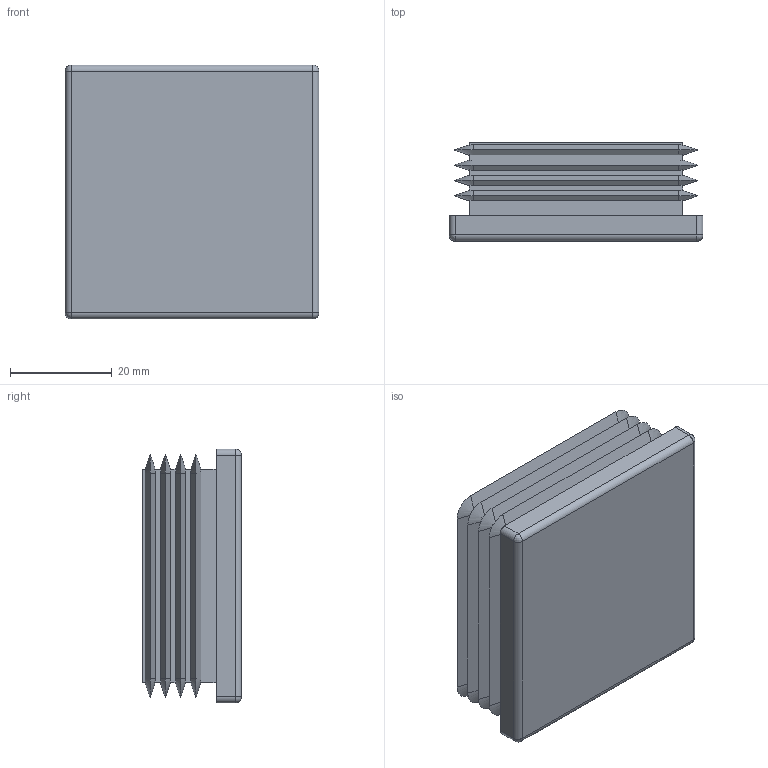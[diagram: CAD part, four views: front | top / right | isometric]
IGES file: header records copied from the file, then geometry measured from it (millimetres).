
Start section: SolidWorks IGES file using analytic representation for surfaces
Global section: file name: C:\HEMSIDA\cad\SLDPRT_2015\ifr\\ifr_50.igs; native system: SolidWorks 2015; preprocessor: SolidWorks 2015; author: Magnus; date: 150818.111804; units: millimetre
Bounding box: 50 x 19.5 x 50 mm (x, y, z)
Surface area: 13745.4 mm2 (no closed solid volume)
Topology: 0 solids, 0 shells, 108 faces, 764 edges, 760 vertices
Faces by surface type: bspline 64, revolution 44
